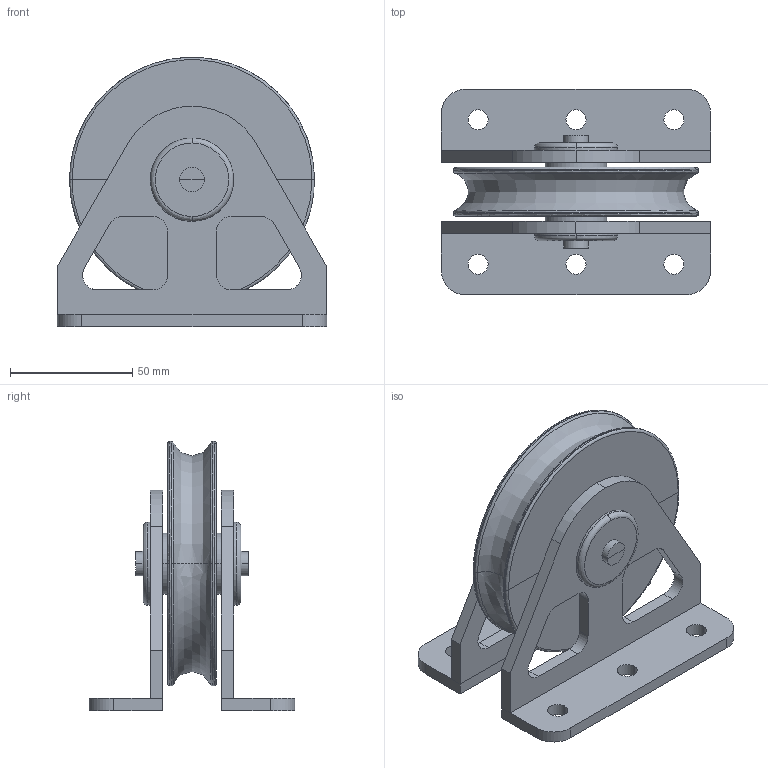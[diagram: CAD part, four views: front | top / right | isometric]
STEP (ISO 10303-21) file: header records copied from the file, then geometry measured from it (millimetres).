
FILE_DESCRIPTION(/* description */ (''),/* implementation_level */ '2;1');
FILE_NAME(/* name */ 'POULIE SIMPLE FIXE D 100',/* time_stamp */ '2005-05-31T09:00:17+02:00',/* author */ (''),/* organization */ (''),/* preprocessor_version */ 'ST-DEVELOPER v8',/* originating_system */ '',/* authorisation */ '');
FILE_SCHEMA (('CONFIG_CONTROL_DESIGN'));
Length unit declared in the file: millimetre
Products named in the file (1): 1
Bounding box: 110 x 84 x 109.94 mm (x, y, z)
Volume: 224497.8 mm3; surface area: 78605.9 mm2
Topology: 13 solids, 13 shells, 208 faces, 485 edges, 289 vertices
Faces by surface type: bspline 208
Entity records: 7590 total; most frequent: CARTESIAN_POINT 4745, ORIENTED_EDGE 948, EDGE_CURVE 474, VERTEX_POINT 290, B_SPLINE_CURVE_WITH_KNOTS 262, EDGE_LOOP 244, ADVANCED_FACE 208, FACE_OUTER_BOUND 208
